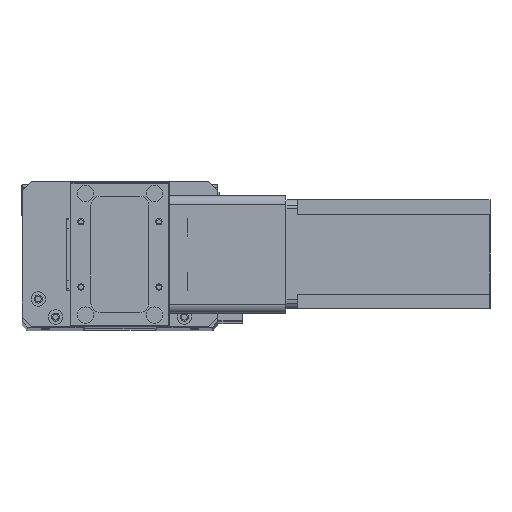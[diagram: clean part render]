
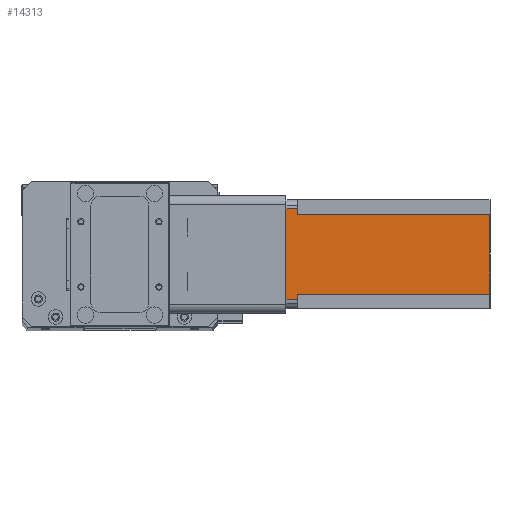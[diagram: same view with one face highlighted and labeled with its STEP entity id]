
A CAD part, top view. The second image highlights one B-rep face of the part: STEP entity #14313.
In plain terms, the highlighted planar face has unit normal (0, 0, 1) as drawn and (0, 1, 0) by its records, which use the part's own axes.
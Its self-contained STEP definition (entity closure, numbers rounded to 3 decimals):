
#552 = DIRECTION ( 'NONE',  ( 0., 0., 1. ) ) ;
#933 = ORIENTED_EDGE ( 'NONE', *, *, #21191, .T. ) ;
#1043 = CARTESIAN_POINT ( 'NONE',  ( 52., 60., -6.5 ) ) ;
#1208 = LINE ( 'NONE', #3468, #11216 ) ;
#1360 = ORIENTED_EDGE ( 'NONE', *, *, #23049, .T. ) ;
#1645 = LINE ( 'NONE', #1043, #16635 ) ;
#2339 = CARTESIAN_POINT ( 'NONE',  ( 55., 60., 0. ) ) ;
#2401 = VERTEX_POINT ( 'NONE', #20908 ) ;
#3468 = CARTESIAN_POINT ( 'NONE',  ( 8., 60., -112.5 ) ) ;
#3559 = CARTESIAN_POINT ( 'NONE',  ( 5., 60., -112.5 ) ) ;
#4776 = CARTESIAN_POINT ( 'NONE',  ( 5., 60., 0. ) ) ;
#5094 = CARTESIAN_POINT ( 'NONE',  ( 52., 60., -112.5 ) ) ;
#5258 = DIRECTION ( 'NONE',  ( 1., 0., 0. ) ) ;
#5629 = ORIENTED_EDGE ( 'NONE', *, *, #26445, .F. ) ;
#5647 = EDGE_CURVE ( 'NONE', #7981, #14516, #1208, .T. ) ;
#6094 = EDGE_CURVE ( 'NONE', #25669, #21596, #18863, .T. ) ;
#6335 = VECTOR ( 'NONE', #22901, 1000. ) ;
#7065 = CARTESIAN_POINT ( 'NONE',  ( 55., 60., -112.5 ) ) ;
#7667 = VECTOR ( 'NONE', #16286, 1000. ) ;
#7981 = VERTEX_POINT ( 'NONE', #21326 ) ;
#8341 = LINE ( 'NONE', #3559, #7667 ) ;
#8453 = ORIENTED_EDGE ( 'NONE', *, *, #21278, .F. ) ;
#9040 = FACE_OUTER_BOUND ( 'NONE', #24213, .T. ) ;
#9230 = CARTESIAN_POINT ( 'NONE',  ( 0., 60., -112.5 ) ) ;
#9574 = VECTOR ( 'NONE', #24123, 1000. ) ;
#10232 = LINE ( 'NONE', #9230, #9574 ) ;
#11188 = CARTESIAN_POINT ( 'NONE',  ( 0., 60., -112.5 ) ) ;
#11216 = VECTOR ( 'NONE', #26822, 1000. ) ;
#11301 = LINE ( 'NONE', #14613, #27637 ) ;
#12018 = CARTESIAN_POINT ( 'NONE',  ( 8., 60., -6.5 ) ) ;
#12117 = AXIS2_PLACEMENT_3D ( 'NONE', #11188, #13312, #552 ) ;
#13312 = DIRECTION ( 'NONE',  ( 0., 1., 0. ) ) ;
#13689 = LINE ( 'NONE', #12018, #24368 ) ;
#14159 = DIRECTION ( 'NONE',  ( -1., 0., 0. ) ) ;
#14313 = ADVANCED_FACE ( 'NONE', ( #9040 ), #21729, .T. ) ;
#14516 = VERTEX_POINT ( 'NONE', #26814 ) ;
#14613 = CARTESIAN_POINT ( 'NONE',  ( 0., 60., 0. ) ) ;
#16131 = ORIENTED_EDGE ( 'NONE', *, *, #25368, .T. ) ;
#16286 = DIRECTION ( 'NONE',  ( 0., 0., 1. ) ) ;
#16530 = CARTESIAN_POINT ( 'NONE',  ( 52., 60., -6.5 ) ) ;
#16635 = VECTOR ( 'NONE', #5258, 1000. ) ;
#16761 = DIRECTION ( 'NONE',  ( -1., 0., 0. ) ) ;
#18863 = LINE ( 'NONE', #7065, #23852 ) ;
#19526 = ORIENTED_EDGE ( 'NONE', *, *, #5647, .F. ) ;
#19817 = DIRECTION ( 'NONE',  ( 0., 0., -1. ) ) ;
#19907 = VERTEX_POINT ( 'NONE', #4776 ) ;
#20908 = CARTESIAN_POINT ( 'NONE',  ( 5., 60., -6.5 ) ) ;
#20987 = ORIENTED_EDGE ( 'NONE', *, *, #6094, .T. ) ;
#20994 = ORIENTED_EDGE ( 'NONE', *, *, #26655, .F. ) ;
#21191 = EDGE_CURVE ( 'NONE', #2401, #19907, #8341, .T. ) ;
#21278 = EDGE_CURVE ( 'NONE', #23422, #22086, #23317, .T. ) ;
#21326 = CARTESIAN_POINT ( 'NONE',  ( 8., 60., -6.5 ) ) ;
#21596 = VERTEX_POINT ( 'NONE', #23913 ) ;
#21729 = PLANE ( 'NONE',  #12117 ) ;
#22086 = VERTEX_POINT ( 'NONE', #16530 ) ;
#22901 = DIRECTION ( 'NONE',  ( 0., 0., 1. ) ) ;
#23049 = EDGE_CURVE ( 'NONE', #23422, #14516, #10232, .T. ) ;
#23317 = LINE ( 'NONE', #27193, #6335 ) ;
#23422 = VERTEX_POINT ( 'NONE', #5094 ) ;
#23852 = VECTOR ( 'NONE', #19817, 1000. ) ;
#23913 = CARTESIAN_POINT ( 'NONE',  ( 55., 60., -6.5 ) ) ;
#24123 = DIRECTION ( 'NONE',  ( -1., 0., 0. ) ) ;
#24213 = EDGE_LOOP ( 'NONE', ( #20994, #20987, #5629, #8453, #1360, #19526, #16131, #933 ) ) ;
#24368 = VECTOR ( 'NONE', #14159, 1000. ) ;
#25368 = EDGE_CURVE ( 'NONE', #7981, #2401, #13689, .T. ) ;
#25669 = VERTEX_POINT ( 'NONE', #2339 ) ;
#26445 = EDGE_CURVE ( 'NONE', #22086, #21596, #1645, .T. ) ;
#26655 = EDGE_CURVE ( 'NONE', #25669, #19907, #11301, .T. ) ;
#26814 = CARTESIAN_POINT ( 'NONE',  ( 8., 60., -112.5 ) ) ;
#26822 = DIRECTION ( 'NONE',  ( 0., 0., -1. ) ) ;
#27193 = CARTESIAN_POINT ( 'NONE',  ( 52., 60., -112.5 ) ) ;
#27637 = VECTOR ( 'NONE', #16761, 1000. ) ;
